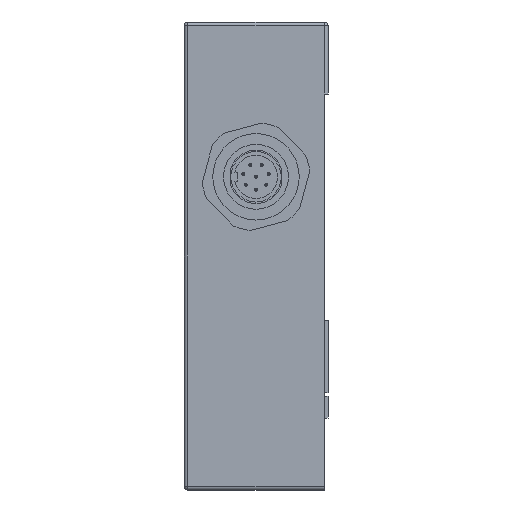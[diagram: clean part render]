
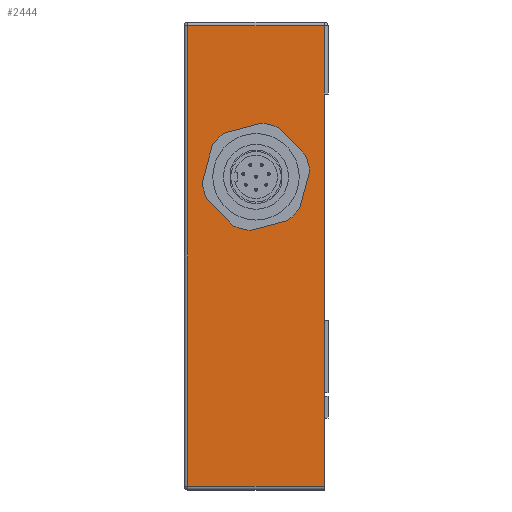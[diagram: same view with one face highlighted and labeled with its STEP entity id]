
A CAD part, left-side view. The second image highlights one B-rep face of the part: STEP entity #2444.
In plain terms, the highlighted planar face has unit normal (-1, 0, 0).
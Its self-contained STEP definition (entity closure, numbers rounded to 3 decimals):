
#780 = PLANE ( 'NONE',  #1941 ) ;
#781 = CARTESIAN_POINT ( 'NONE',  ( 0., 19.5, 0. ) ) ;
#782 = DIRECTION ( 'NONE',  ( 1., 0., 0. ) ) ;
#783 = DIRECTION ( 'NONE',  ( 0., 0., -1. ) ) ;
#1301 = EDGE_CURVE ( 'NONE', #8568, #8572, #3946, .T. ) ;
#1343 = EDGE_CURVE ( 'NONE', #8475, #8719, #4009, .T. ) ;
#1354 = EDGE_CURVE ( 'NONE', #8572, #8568, #4030, .T. ) ;
#1355 = EDGE_CURVE ( 'NONE', #8719, #8951, #4029, .T. ) ;
#1356 = EDGE_CURVE ( '������7', #8951, #8377, #4032, .T. ) ;
#1357 = EDGE_CURVE ( '������26', #8377, #8615, #4034, .T. ) ;
#1358 = EDGE_CURVE ( 'NONE', #8615, #8475, #4036, .T. ) ;
#1941 = AXIS2_PLACEMENT_3D ( 'NONE', #781, #782, #783 ) ;
#2444 = ADVANCED_FACE ( '�����8', ( #5742, #5743 ), #780, .F. ) ;
#3946 = CIRCLE ( 'NONE', #9559, 4. ) ;
#4009 = LINE ( 'NONE', #6525, #4010 ) ;
#4010 = VECTOR ( 'NONE', #6524, 1000. ) ;
#4029 = LINE ( 'NONE', #6498, #4031 ) ;
#4030 = CIRCLE ( 'NONE', #9536, 4. ) ;
#4031 = VECTOR ( 'NONE', #6497, 1000. ) ;
#4032 = LINE ( 'NONE', #6496, #4033 ) ;
#4033 = VECTOR ( 'NONE', #6495, 1000. ) ;
#4034 = LINE ( 'NONE', #6494, #4035 ) ;
#4035 = VECTOR ( 'NONE', #6493, 1000. ) ;
#4036 = LINE ( 'NONE', #6492, #4037 ) ;
#4037 = VECTOR ( 'NONE', #6491, 1000. ) ;
#5742 = FACE_BOUND ( 'NONE', #6600, .T. ) ;
#5743 = FACE_OUTER_BOUND ( 'NONE', #6599, .T. ) ;
#6491 = DIRECTION ( 'NONE',  ( 0., -1., 0. ) ) ;
#6492 = CARTESIAN_POINT ( 'NONE',  ( 0., 19.5, -64.5 ) ) ;
#6493 = DIRECTION ( 'NONE',  ( 0., 0., -1. ) ) ;
#6494 = CARTESIAN_POINT ( 'NONE',  ( 0., 19., 0. ) ) ;
#6495 = DIRECTION ( 'NONE',  ( 0., 1., 0. ) ) ;
#6496 = CARTESIAN_POINT ( 'NONE',  ( 0., 19.5, -0.5 ) ) ;
#6497 = DIRECTION ( 'NONE',  ( 0., 0., 1. ) ) ;
#6498 = CARTESIAN_POINT ( 'NONE',  ( 0., 0., 0. ) ) ;
#6499 = DIRECTION ( 'NONE',  ( 0., 0., 1. ) ) ;
#6500 = DIRECTION ( 'NONE',  ( -1., 0., 0. ) ) ;
#6501 = CARTESIAN_POINT ( 'NONE',  ( 0., 9.5, -21.5 ) ) ;
#6524 = DIRECTION ( 'NONE',  ( 0., 0., 1. ) ) ;
#6525 = CARTESIAN_POINT ( 'NONE',  ( 0., 0., 0. ) ) ;
#6599 = EDGE_LOOP ( 'NONE', ( #9152, #9153, #9154, #9155, #9156 ) ) ;
#6600 = EDGE_LOOP ( 'NONE', ( #9150, #9151 ) ) ;
#6955 = CARTESIAN_POINT ( 'NONE',  ( 0., 19., -0.5 ) ) ;
#6996 = CARTESIAN_POINT ( 'NONE',  ( 0., 0., -64.5 ) ) ;
#7089 = CARTESIAN_POINT ( 'NONE',  ( 0., 9.5, -25.5 ) ) ;
#7093 = CARTESIAN_POINT ( 'NONE',  ( 0., 9.5, -17.5 ) ) ;
#7136 = CARTESIAN_POINT ( 'NONE',  ( 0., 19., -64.5 ) ) ;
#7240 = CARTESIAN_POINT ( 'NONE',  ( 0., 0., -10. ) ) ;
#7472 = CARTESIAN_POINT ( 'NONE',  ( 0., 0., -0.5 ) ) ;
#8377 = VERTEX_POINT ( 'NONE', #6955 ) ;
#8418 = DIRECTION ( 'NONE',  ( 0., 0., 1. ) ) ;
#8419 = DIRECTION ( 'NONE',  ( -1., 0., 0. ) ) ;
#8420 = CARTESIAN_POINT ( 'NONE',  ( 0., 9.5, -21.5 ) ) ;
#8475 = VERTEX_POINT ( 'NONE', #6996 ) ;
#8568 = VERTEX_POINT ( 'NONE', #7089 ) ;
#8572 = VERTEX_POINT ( 'NONE', #7093 ) ;
#8615 = VERTEX_POINT ( 'NONE', #7136 ) ;
#8719 = VERTEX_POINT ( 'NONE', #7240 ) ;
#8951 = VERTEX_POINT ( 'NONE', #7472 ) ;
#9150 = ORIENTED_EDGE ( 'NONE', *, *, #1354, .F. ) ;
#9151 = ORIENTED_EDGE ( 'NONE', *, *, #1301, .F. ) ;
#9152 = ORIENTED_EDGE ( 'NONE', *, *, #1343, .T. ) ;
#9153 = ORIENTED_EDGE ( 'NONE', *, *, #1355, .T. ) ;
#9154 = ORIENTED_EDGE ( 'NONE', *, *, #1356, .T. ) ;
#9155 = ORIENTED_EDGE ( 'NONE', *, *, #1357, .T. ) ;
#9156 = ORIENTED_EDGE ( 'NONE', *, *, #1358, .T. ) ;
#9536 = AXIS2_PLACEMENT_3D ( 'NONE', #6501, #6500, #6499 ) ;
#9559 = AXIS2_PLACEMENT_3D ( 'NONE', #8420, #8419, #8418 ) ;
